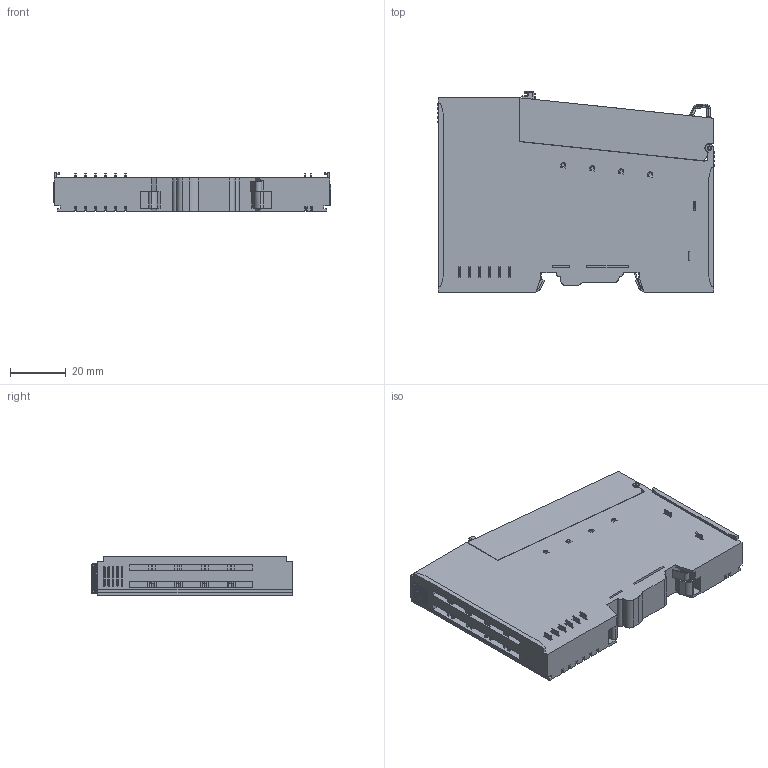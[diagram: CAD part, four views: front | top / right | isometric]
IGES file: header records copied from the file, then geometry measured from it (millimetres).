
Start section: SolidWorks IGES file using analytic representation for surfaces
Global section: file name: Z:\Products\Remote IO\10RTB\10RTB_CAD FILES\3D\10RTB.IGS; native system: SolidWorks 2017; preprocessor: SolidWorks 2017; author: laorb; date: 181203.142911; units: millimetre
Bounding box: 99.8 x 72.19 x 13.9 mm (x, y, z)
Surface area: 25849.1 mm2 (no closed solid volume)
Topology: 0 solids, 0 shells, 1204 faces, 8098 edges, 8035 vertices
Faces by surface type: bspline 892, revolution 312
